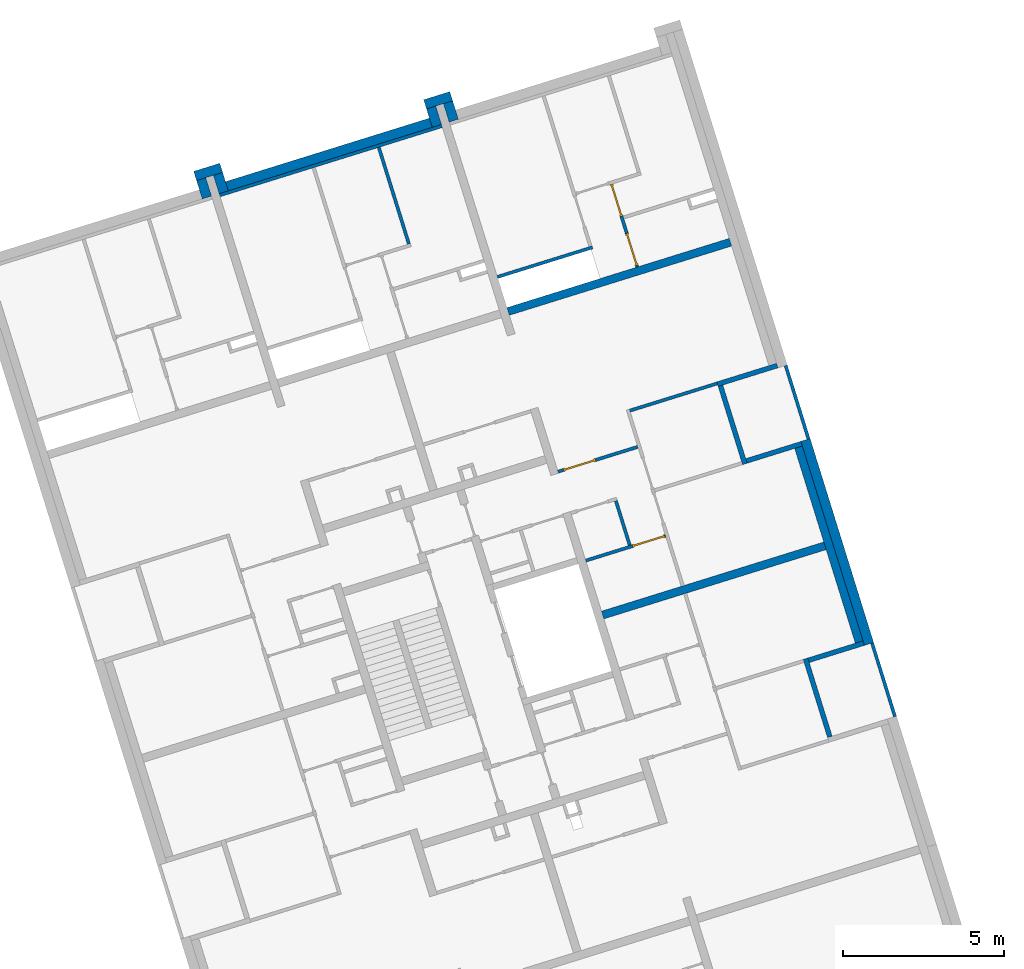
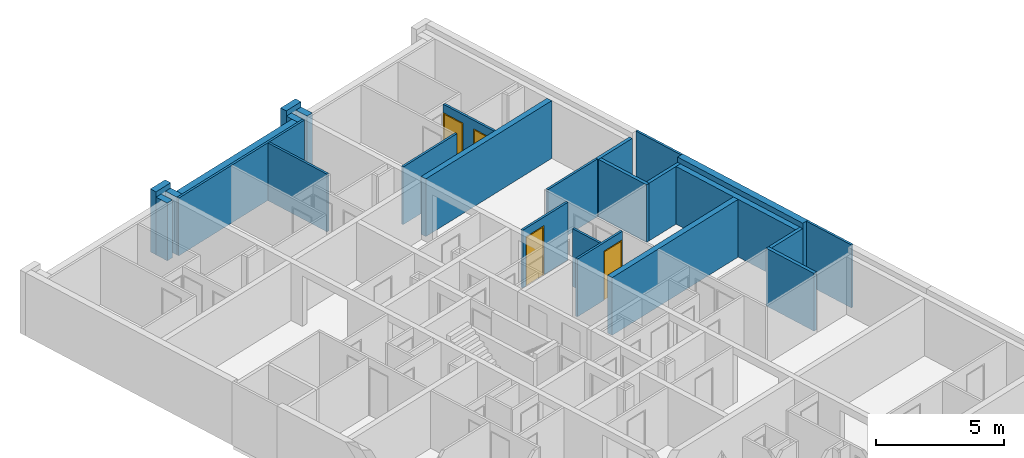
# One storey, part 8 of 12: 26 walls, 4 doors, 5 openings.
"""IFC4 building model written with IfcOpenShell, lengths in metres."""

from ifc_helpers import new_model, entity, si_unit, converted_unit, direction, frame, origin, place, context, subcontext, project, spatial, indexed_curve, outline, extrude, polygons, source, transform, mapped, material, constituent, constituent_set, type_object, type_shapes, element, fill, save


model = new_model("IFC4")

# Units and contexts
model_context = context("Model", 3, precision=1e-05, world=origin(), true_north=direction((6.12323399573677e-17, 1.0)))
body_context = subcontext(model_context, "Body", "Model", "MODEL_VIEW")
ifc_project = project(units=[si_unit("LENGTHUNIT", "METRE"), si_unit("AREAUNIT", "SQUARE_METRE"), converted_unit("PLANEANGLEUNIT", "DEGREE", entity("IfcPlaneAngleMeasure", 0.0174532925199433), si_unit("PLANEANGLEUNIT", "RADIAN"), dimensions=[0, 0, 0, 0, 0, 0, 0]), si_unit("VOLUMEUNIT", "CUBIC_METRE")], contexts=[model_context])

# Site, building, storey
site_placement = place(None, frame((13.1347999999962, 11.9886000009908, 0.0), z_axis=(0.0, 0.0, 1.0), x_axis=(0.954770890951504, 0.297342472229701, 0.0)))
site = spatial("IfcSite", under=ifc_project, at=site_placement, Name="Schiehaven", CompositionType="ELEMENT")
building_placement = place(site_placement, origin())
building = spatial("IfcBuilding", under=site, at=building_placement, Name="VORM huis", CompositionType="ELEMENT")
storey_placement = place(building_placement, frame((0.0, 0.0, 3.9)))
storey = spatial("IfcBuildingStorey", under=building, at=storey_placement, Name="01 eerste verdieping", CompositionType="ELEMENT", Elevation=3.9)

# Walls
ifc_material_1 = material(Name="beton_gewapend_ihw", Category="Miscellaneous")
wall_type_1 = type_object("IfcWallType", Name="Basic Wall:28_WA_skelet_wand 250mm_gen", PredefinedType="STANDARD")
wall_1_placement = place(storey_placement, frame((80.0, 13.875, 0.0), z_axis=(0.0, 0.0, 1.0), x_axis=(0.0, 1.0, 0.0)))
element("IfcWall", 1, at=wall_1_placement, inside=storey, type_object=wall_type_1, material=ifc_material_1, Name="Constructieve wand", ObjectType="Wand", PredefinedType="NOTDEFINED", context=body_context, shape_type="SweptSolid", body=[
    extrude(outline(indexed_curve([(6.34999999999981, 0.125000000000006), (6.82121026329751e-16, 0.125000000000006), (1.48361323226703e-15, -0.125000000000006), (6.3499999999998, -0.125000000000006), (6.34999999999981, 0.125000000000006)], self_intersect=False)), origin(), (0.0, 0.0, 1.0), 2.75),
])
ifc_material_2 = material(Name="ntb_ntb_ntb", Category="Miscellaneous")
wall_type_2 = type_object("IfcWallType", Name="Basic Wall:21_WA_gevel_binnenspouwwand 100mm_gen", PredefinedType="STANDARD")
wall_2_placement = place(storey_placement, frame((72.3750000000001, 33.0749999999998, 0.0), z_axis=(0.0, 0.0, 1.0), x_axis=(-1.0, 0.0, 0.0)))
element("IfcWall", 2, at=wall_2_placement, inside=storey, type_object=wall_type_2, material=ifc_material_2, Name="Binnenspouwblad", ObjectType="Wand", PredefinedType="NOTDEFINED", context=body_context, shape_type="SweptSolid", body=[
    extrude(outline(indexed_curve([(7.24999999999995, 0.0500000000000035), (1.69379877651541e-17, 0.0500000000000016), (-1.69379877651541e-17, -0.0500000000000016), (7.24999999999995, -0.0499999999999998), (7.24999999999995, 0.0500000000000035)], self_intersect=False)), origin(), (0.0, 0.0, 1.0), 2.75),
])
wall_type_3 = type_object("IfcWallType", Name="Basic Wall: 300mm_gen", PredefinedType="STANDARD")
wall_3_placement = place(storey_placement, frame((80.2750000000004, 13.725, 0.0), z_axis=(0.0, 0.0, 1.0), x_axis=(0.0, 1.0, 0.0)))
element("IfcWall", 3, at=wall_3_placement, inside=storey, type_object=wall_type_3, material=ifc_material_2, Name="Gevelwand", ObjectType="Wand", PredefinedType="NOTDEFINED", context=body_context, shape_type="SweptSolid", body=[
    extrude(outline(indexed_curve([(6.64999999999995, 0.150000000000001), (3.90809189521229e-16, 0.150000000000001), (-3.90809189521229e-16, -0.150000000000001), (6.64999999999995, -0.150000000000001), (6.64999999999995, 0.150000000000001)], self_intersect=False)), origin(), (0.0, 0.0, 1.0), 3.0),
])
wall_4_placement = place(storey_placement, frame((64.7250000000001, 33.7249999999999, 0.0), z_axis=(0.0, 0.0, 1.0), x_axis=(0.0, -1.0, 0.0)))
element("IfcWall", 4, at=wall_4_placement, inside=storey, type_object=wall_type_3, material=ifc_material_2, Name="Gevelwand", ObjectType="Wand", PredefinedType="NOTDEFINED", context=body_context, shape_type="SweptSolid", body=[
    extrude(outline(indexed_curve([(0.600000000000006, 0.150000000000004), (-9.66298299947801e-16, 0.150000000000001), (9.66298299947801e-16, -0.150000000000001), (0.600000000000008, -0.149999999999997), (0.600000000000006, 0.150000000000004)], self_intersect=False)), origin(), (0.0, 0.0, 1.0), 2.75),
])
wall_5_placement = place(storey_placement, frame((65.4250000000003, 33.8749999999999, 0.0), z_axis=(0.0, 0.0, 1.0), x_axis=(-1.0, 0.0, 0.0)))
element("IfcWall", 5, at=wall_5_placement, inside=storey, type_object=wall_type_3, material=ifc_material_2, Name="Gevelwand", ObjectType="Wand", PredefinedType="NOTDEFINED", context=body_context, shape_type="SweptSolid", body=[
    extrude(outline(indexed_curve([(0.850000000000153, 0.150000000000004), (-6.58211410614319e-16, 0.150000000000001), (6.58211410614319e-16, -0.150000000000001), (0.850000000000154, -0.149999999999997), (0.850000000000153, 0.150000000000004)], self_intersect=False)), origin(), (0.0, 0.0, 1.0), 3.0),
])
wall_6_placement = place(storey_placement, frame((65.2750000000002, 33.1249999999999, 0.0), z_axis=(0.0, 0.0, 1.0), x_axis=(0.0, 1.0, 0.0)))
element("IfcWall", 6, at=wall_6_placement, inside=storey, type_object=wall_type_3, material=ifc_material_2, Name="Gevelwand", ObjectType="Wand", PredefinedType="NOTDEFINED", context=body_context, shape_type="SweptSolid", body=[
    extrude(outline(indexed_curve([(0.600000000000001, 0.150000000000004), (-9.66298299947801e-16, 0.150000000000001), (9.66298299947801e-16, -0.150000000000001), (0.600000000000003, -0.149999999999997), (0.600000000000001, 0.150000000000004)], self_intersect=False)), origin(), (0.0, 0.0, 1.0), 2.75),
])
wall_7_placement = place(storey_placement, frame((72.2250000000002, 33.7249999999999, 0.0), z_axis=(0.0, 0.0, 1.0), x_axis=(0.0, -1.0, 0.0)))
element("IfcWall", 7, at=wall_7_placement, inside=storey, type_object=wall_type_3, material=ifc_material_2, Name="Gevelwand", ObjectType="Wand", PredefinedType="NOTDEFINED", context=body_context, shape_type="SweptSolid", body=[
    extrude(outline(indexed_curve([(0.600000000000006, 0.150000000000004), (-9.66298299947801e-16, 0.150000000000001), (9.66298299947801e-16, -0.150000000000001), (0.600000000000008, -0.149999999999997), (0.600000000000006, 0.150000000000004)], self_intersect=False)), origin(), (0.0, 0.0, 1.0), 2.75),
])
wall_8_placement = place(storey_placement, frame((72.0750000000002, 33.2749999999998, 0.0), z_axis=(0.0, 0.0, 1.0), x_axis=(-1.0, 0.0, 0.0)))
element("IfcWall", 8, at=wall_8_placement, inside=storey, type_object=wall_type_3, material=ifc_material_2, Name="Gevelwand", ObjectType="Wand", PredefinedType="NOTDEFINED", context=body_context, shape_type="SweptSolid", body=[
    extrude(outline(indexed_curve([(6.64999999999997, 0.150000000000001), (-4.90186530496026e-16, 0.150000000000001), (4.90186530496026e-16, -0.150000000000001), (6.64999999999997, -0.15), (6.64999999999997, 0.150000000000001)], self_intersect=False)), origin(), (0.0, 0.0, 1.0), 2.75),
])
wall_9_placement = place(storey_placement, frame((72.9250000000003, 33.8749999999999, 0.0), z_axis=(0.0, 0.0, 1.0), x_axis=(-1.0, 0.0, 0.0)))
element("IfcWall", 9, at=wall_9_placement, inside=storey, type_object=wall_type_3, material=ifc_material_2, Name="Gevelwand", ObjectType="Wand", PredefinedType="NOTDEFINED", context=body_context, shape_type="SweptSolid", body=[
    extrude(outline(indexed_curve([(0.850000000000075, 0.150000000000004), (-6.58211410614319e-16, 0.150000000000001), (6.58211410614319e-16, -0.150000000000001), (0.850000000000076, -0.149999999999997), (0.850000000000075, 0.150000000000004)], self_intersect=False)), origin(), (0.0, 0.0, 1.0), 3.0),
])
wall_10_placement = place(storey_placement, frame((72.7750000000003, 33.1249999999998, 0.0), z_axis=(0.0, 0.0, 1.0), x_axis=(0.0, 1.0, 0.0)))
element("IfcWall", 10, at=wall_10_placement, inside=storey, type_object=wall_type_3, material=ifc_material_2, Name="Gevelwand", ObjectType="Wand", PredefinedType="NOTDEFINED", context=body_context, shape_type="SweptSolid", body=[
    extrude(outline(indexed_curve([(0.60000000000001, 0.150000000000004), (-9.66298299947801e-16, 0.150000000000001), (9.66298299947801e-16, -0.150000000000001), (0.600000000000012, -0.149999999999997), (0.60000000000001, 0.150000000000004)], self_intersect=False)), origin(), (0.0, 0.0, 1.0), 2.75),
])
wall_type_4 = type_object("IfcWallType", Name="Basic Wall:22_WA_afbouw_binnenwand 250mm_gen", PredefinedType="STANDARD")
wall_11_placement = place(storey_placement, frame((72.6250000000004, 17.05, 0.0)))
element("IfcWall", 11, at=wall_11_placement, inside=storey, type_object=wall_type_4, material=ifc_material_2, Name="Binnenwand", ObjectType="Wand", PredefinedType="NOTDEFINED", context=body_context, shape_type="SweptSolid", body=[
    extrude(outline(indexed_curve([(7.24999999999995, 0.124999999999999), (5.6918223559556e-16, 0.125), (-5.6918223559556e-16, -0.125), (7.24999999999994, -0.125), (7.24999999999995, 0.124999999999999)], self_intersect=False)), origin(), (0.0, 0.0, 1.0), 2.75),
])
wall_12_placement = place(storey_placement, frame((79.8750000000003, 26.95, 0.0), z_axis=(0.0, 0.0, 1.0), x_axis=(-1.0, 0.0, 0.0)))
element("IfcWall", 12, at=wall_12_placement, inside=storey, type_object=wall_type_4, material=ifc_material_2, Name="Binnenwand", ObjectType="Wand", PredefinedType="NOTDEFINED", context=body_context, shape_type="SweptSolid", body=[
    extrude(outline(indexed_curve([(7.24999999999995, 0.125000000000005), (6.85879083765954e-16, 0.125000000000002), (-6.85879083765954e-16, -0.125000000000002), (7.24999999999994, -0.124999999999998), (7.24999999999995, 0.125000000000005)], self_intersect=False)), origin(), (0.0, 0.0, 1.0), 2.75),
])
wall_type_5 = type_object("IfcWallType", Name="Basic Wall:22_WA_afbouw_binnenwand 100mm_gen", PredefinedType="STANDARD")
wall_13_placement = place(storey_placement, frame((75.7250000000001, 28.0749999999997, 0.0), z_axis=(0.0, 0.0, 1.0), x_axis=(-1.0, 0.0, 0.0)))
element("IfcWall", 13, at=wall_13_placement, inside=storey, type_object=wall_type_5, material=ifc_material_2, Name="Binnenwand", ObjectType="Wand", PredefinedType="NOTDEFINED", context=body_context, shape_type="SweptSolid", body=[
    extrude(outline(indexed_curve([(3.10000000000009, 0.0500000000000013), (-4.84095551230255e-16, 0.0500000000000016), (4.84095551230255e-16, -0.0500000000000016), (3.10000000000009, -0.0500000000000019), (3.10000000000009, 0.0500000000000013)], self_intersect=False)), origin(), (0.0, 0.0, 1.0), 2.75),
])

# Wall, openings, doors
wall_14_placement = place(storey_placement, frame((76.875, 29.7749999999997, 0.0), z_axis=(0.0, 0.0, 1.0), x_axis=(0.0, -1.0, 0.0)))
wall_14 = element("IfcWall", 14, at=wall_14_placement, inside=storey, type_object=wall_type_5, material=ifc_material_2, Name="Binnenwand", ObjectType="Wand", PredefinedType="NOTDEFINED", context=body_context, shape_type="Tessellation", body=[
    polygons([(2.69999999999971, -0.0499999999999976, 2.75), (0.0, -0.0500000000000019, 2.75), (0.0, -0.0500000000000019, 2.34999999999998), (1.05000000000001, -0.0499999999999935, 2.34999999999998), (1.05000000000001, -0.0499999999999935, 0.0), (1.59999999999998, -0.049999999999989, 0.0), (1.59999999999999, -0.049999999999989, 2.34999999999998), (2.64999999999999, -0.049999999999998, 2.34999999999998), (2.64999999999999, -0.049999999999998, 0.0), (2.69999999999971, -0.0499999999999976, 0.0), (0.0, 0.0499999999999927, 2.75), (1.05000000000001, 0.0500000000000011, 2.75), (1.15000000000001, 0.0500000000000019, 2.75), (2.69999999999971, 0.0500000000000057, 2.75), (2.69999999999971, 0.0500000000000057, 0.0), (2.64999999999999, 0.0500000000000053, 0.0), (2.64999999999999, 0.0500000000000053, 2.34999999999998), (1.59999999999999, 0.0500000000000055, 2.34999999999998), (1.59999999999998, 0.0500000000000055, 0.0), (1.15000000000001, 0.0500000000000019, 5.41433564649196e-16), (1.05000000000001, 0.0500000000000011, 0.0), (1.05000000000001, 0.0500000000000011, 2.34999999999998), (0.0, 0.0499999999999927, 2.34999999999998)], [[[1, 2, 3, 4, 5, 6, 7, 8, 9, 10]], [[11, 12, 13, 14, 15, 16, 17, 18, 19, 20, 21, 22, 23]], [[9, 16, 15, 10]], [[2, 1, 14, 13, 12, 11]], [[18, 17, 8, 7]], [[17, 16, 9, 8]], [[19, 18, 7, 6]], [[2, 11, 23, 3]], [[4, 22, 21, 5]], [[22, 4, 3, 23]], [[1, 10, 15, 14]], [[19, 6, 5, 21, 20]]], closed=True),
])
opening_1_placement = place(wall_14_placement, frame((2.64999999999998, 0.04999999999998, 0.0)))
opening_1 = element("IfcOpeningElement", 15, at=opening_1_placement, cuts=wall_14, Name="Binnendeur", PredefinedType="OPENING", context=body_context, shape_type="SweptSolid", body=[
    extrude(outline(indexed_curve([(2.34999999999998, 1.05), (0.0, 1.05), (0.0, 0.0), (2.34999999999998, 0.0), (2.34999999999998, 1.05)], self_intersect=False)), frame((0.0, 0.0, 0.0), z_axis=(0.0, -1.0, 0.0), x_axis=(0.0, 0.0, 1.0)), (0.0, 0.0, 1.0), 0.1),
])
opening_2_placement = place(wall_14_placement, frame((29.7749999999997, -76.875, 0.0), z_axis=(0.0, 0.0, 1.0), x_axis=(0.0, 1.0, 0.0)))
element("IfcOpeningElement", 16, at=opening_2_placement, cuts=wall_14, Name="Binnendeur", PredefinedType="OPENING", context=body_context, shape_type="SweptSolid", body=[
    extrude(outline(indexed_curve([(-0.525000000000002, -1.17499999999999), (0.525000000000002, -1.17499999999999), (0.524999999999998, 1.17499999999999), (-0.525000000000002, 1.17499999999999), (-0.525000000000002, -1.17499999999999)], self_intersect=False)), frame((75.401, 27.6499999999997, 1.17499999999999), z_axis=(1.0, 0.0, 0.0), x_axis=(0.0, -1.0, 0.0)), (0.0, 0.0, 1.0), 3.048),
])
opening_3_placement = place(wall_14_placement, frame((1.05, 0.0499999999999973, 0.0)))
opening_3 = element("IfcOpeningElement", 17, at=opening_3_placement, cuts=wall_14, Name="Binnendeur", PredefinedType="OPENING", context=body_context, shape_type="SweptSolid", body=[
    extrude(outline(indexed_curve([(2.34999999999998, 1.05), (0.0, 1.05), (0.0, 0.0), (2.34999999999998, 0.0), (2.34999999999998, 1.05)], self_intersect=False)), frame((0.0, 0.0, 0.0), z_axis=(0.0, -1.0, 0.0), x_axis=(0.0, 0.0, 1.0)), (0.0, 0.0, 1.0), 0.1),
])
ifc_material_3 = material(Name="PD_a_binnenwandopeningen", Category="Miscellaneous")
ifc_constituent_1 = constituent(ifc_material_3, Name="PD_a_binnenwandopeningen", Category="Miscellaneous")
ifc_material_4 = material(Name="metaal_aluminium_ntb", Category="Miscellaneous")
ifc_constituent_2 = constituent(ifc_material_4, Name="metaal_aluminium_ntb", Category="Miscellaneous")
ifc_constituent_set_1 = constituent_set(constituents=[ifc_constituent_1, ifc_constituent_2])
ifc_constituent_3 = constituent(ifc_material_3, Name="PD_a_binnenwandopeningen", Category="Miscellaneous")
ifc_constituent_4 = constituent(ifc_material_4, Name="Panel", Category="Miscellaneous")
ifc_constituent_set_2 = constituent_set(constituents=[ifc_constituent_3, ifc_constituent_4])
door_type_1 = type_object("IfcDoorType", Name="32_DO_binnendeur enkel:binnendeur", OperationType="REVOLVING", PredefinedType="DOOR", material=ifc_constituent_set_2)
shared_shape_1 = source(origin(), body_context, "Body", "SweptSolid", [
    extrude(outline(indexed_curve([(-1.16249999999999, -0.525000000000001), (1.18749999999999, -0.525), (1.18749999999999, 0.525), (-1.16249999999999, 0.525), (-1.16249999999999, 0.475), (1.13749999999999, 0.475), (1.13749999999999, -0.475), (-1.16249999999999, -0.475), (-1.16249999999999, -0.525000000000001)], self_intersect=False)), frame((0.525000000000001, 0.0, 1.16249999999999), z_axis=(0.0, 1.0, 0.0), x_axis=(0.0, 0.0, 1.0)), (0.0, 0.0, 1.0), 0.1),
    extrude(outline(indexed_curve([(-0.025, -0.475), (0.025, -0.475), (0.025, 0.475), (-0.025, 0.475), (-0.025, -0.475)], self_intersect=False)), frame((0.525000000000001, 0.0499999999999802, 0.0), z_axis=(0.0, 0.0, 1.0), x_axis=(0.0, 1.0, 0.0)), (0.0, 0.0, 1.0), 2.29999999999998),
])
type_shapes(door_type_1, [shared_shape_1])
door_1_placement = place(opening_1_placement, frame((0.0, 0.0, 0.0), z_axis=(0.0, 0.0, 1.0), x_axis=(-1.0, 0.0, 0.0)))
door_1 = element("IfcDoor", 18, at=door_1_placement, inside=storey, type_object=door_type_1, material=ifc_constituent_set_1, Name="Binnendeur", ObjectType="Deur", OperationType="REVOLVING", OverallHeight=2.34999999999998, OverallWidth=1.05, PredefinedType="DOOR", context=body_context, shape_type="MappedRepresentation", body=[
    mapped(shared_shape_1, transform((0.0, 0.0, 0.0), scale=1.0)),
])
fill(opening_1, door_1)
ifc_constituent_5 = constituent(ifc_material_3, Name="PD_a_binnenwandopeningen", Category="Miscellaneous")
ifc_constituent_6 = constituent(ifc_material_4, Name="metaal_aluminium_ntb", Category="Miscellaneous")
ifc_constituent_set_3 = constituent_set(constituents=[ifc_constituent_5, ifc_constituent_6])
door_2_placement = place(opening_3_placement, frame((0.0, 0.0, 0.0), z_axis=(0.0, 0.0, 1.0), x_axis=(-1.0, 0.0, 0.0)))
door_2 = element("IfcDoor", 19, at=door_2_placement, inside=storey, type_object=door_type_1, material=ifc_constituent_set_3, Name="Binnendeur", ObjectType="Deur", OperationType="REVOLVING", OverallHeight=2.34999999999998, OverallWidth=1.05, PredefinedType="DOOR", context=body_context, shape_type="MappedRepresentation", body=[
    mapped(shared_shape_1, transform((0.0, 0.0, 0.0), scale=1.0)),
])
fill(opening_3, door_2)

# Walls
wall_15_placement = place(storey_placement, frame((70.3000000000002, 33.0249999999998, 0.0), z_axis=(0.0, 0.0, 1.0), x_axis=(0.0, -1.0, 0.0)))
element("IfcWall", 20, at=wall_15_placement, inside=storey, type_object=wall_type_5, material=ifc_material_2, Name="Binnenwand", ObjectType="Wand", PredefinedType="NOTDEFINED", context=body_context, shape_type="SweptSolid", body=[
    extrude(outline(indexed_curve([(3.15000000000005, 0.0499999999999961), (-3.92720775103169e-16, 0.0499999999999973), (3.92720775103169e-16, -0.0499999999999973), (3.15000000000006, -0.0499999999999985), (3.15000000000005, 0.0499999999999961)], self_intersect=False)), origin(), (0.0, 0.0, 1.0), 2.75),
])
wall_16_placement = place(storey_placement, frame((75.3249999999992, 22.8749999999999, 0.0)))
element("IfcWall", 21, at=wall_16_placement, inside=storey, type_object=wall_type_5, material=ifc_material_2, Name="Binnenwand", ObjectType="Wand", PredefinedType="NOTDEFINED", context=body_context, shape_type="SweptSolid", body=[
    extrude(outline(indexed_curve([(2.85000000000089, 0.0499999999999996), (-4.97237078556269e-16, 0.0500000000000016), (4.97237078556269e-16, -0.0500000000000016), (2.85000000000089, -0.0500000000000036), (2.85000000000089, 0.0499999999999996)], self_intersect=False)), origin(), (0.0, 0.0, 1.0), 2.75),
])

# Wall, opening, door
wall_17_placement = place(storey_placement, frame((75.2249999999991, 18.8249999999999, 0.0), z_axis=(0.0, 0.0, 1.0), x_axis=(-1.0, 0.0, 0.0)))
wall_17 = element("IfcWall", 22, at=wall_17_placement, inside=storey, type_object=wall_type_5, material=ifc_material_2, Name="Binnenwand", ObjectType="Wand", PredefinedType="NOTDEFINED", context=body_context, shape_type="Tessellation", body=[
    polygons([(1.07500000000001, -0.0499999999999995, 2.34999999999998), (1.07500000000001, -0.0499999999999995, -5.41433564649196e-16), (1.1, -0.0499999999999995, 0.0), (1.2, -0.0499999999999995, 0.0), (2.59999999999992, -0.0499999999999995, -5.41433564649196e-16), (2.59999999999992, -0.0499999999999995, 2.75), (1.2, -0.0499999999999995, 2.75), (1.1, -0.0499999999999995, 2.75), (-2.08358811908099e-15, -0.0499999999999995, 2.75), (-2.08358811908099e-15, -0.0499999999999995, -5.41433564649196e-16), (0.0250000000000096, -0.0500000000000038, -5.41433564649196e-16), (0.0250000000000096, -0.0500000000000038, 2.34999999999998), (2.59999999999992, 0.0500000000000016, -5.41433564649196e-16), (1.07500000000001, 0.0500000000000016, -5.41433564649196e-16), (1.07500000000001, 0.0500000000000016, 2.34999999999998), (0.0250000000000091, 0.0499999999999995, 2.34999999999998), (0.0250000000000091, 0.0499999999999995, -5.41433564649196e-16), (-2.53151279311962e-15, 0.0499999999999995, -5.41433564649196e-16), (-2.53151279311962e-15, 0.0499999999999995, 2.75), (2.59999999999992, 0.0500000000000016, 2.75)], [[[1, 2, 3, 4, 5, 6, 7, 8, 9, 10, 11, 12]], [[13, 14, 15, 16, 17, 18, 19, 20]], [[11, 10, 18, 17]], [[6, 5, 13, 20]], [[9, 8, 7, 6, 20, 19]], [[17, 16, 12, 11]], [[15, 14, 2, 1]], [[16, 15, 1, 12]], [[10, 9, 19, 18]], [[5, 4, 3, 2, 14, 13]]], closed=True),
])
opening_4_placement = place(wall_17_placement, frame((1.07500000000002, 0.049999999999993, 0.0)))
opening_4 = element("IfcOpeningElement", 23, at=opening_4_placement, cuts=wall_17, Name="Binnendeur", PredefinedType="OPENING", context=body_context, shape_type="SweptSolid", body=[
    extrude(outline(indexed_curve([(2.34999999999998, 1.05), (0.0, 1.05), (0.0, 0.0), (2.34999999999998, 0.0), (2.34999999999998, 1.05)], self_intersect=False)), frame((0.0, 0.0, 0.0), z_axis=(0.0, -1.0, 0.0), x_axis=(0.0, 0.0, 1.0)), (0.0, 0.0, 1.0), 0.1),
])
ifc_constituent_7 = constituent(ifc_material_3, Name="PD_a_binnenwandopeningen", Category="Miscellaneous")
ifc_constituent_8 = constituent(ifc_material_4, Name="metaal_aluminium_ntb", Category="Miscellaneous")
ifc_constituent_set_4 = constituent_set(constituents=[ifc_constituent_7, ifc_constituent_8])
door_3_placement = place(opening_4_placement, frame((0.0, 0.0, 0.0), z_axis=(0.0, 0.0, 1.0), x_axis=(-1.0, 0.0, 0.0)))
door_3 = element("IfcDoor", 24, at=door_3_placement, inside=storey, type_object=door_type_1, material=ifc_constituent_set_4, Name="Binnendeur", ObjectType="Deur", OperationType="REVOLVING", OverallHeight=2.34999999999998, OverallWidth=1.05, PredefinedType="DOOR", context=body_context, shape_type="MappedRepresentation", body=[
    mapped(shared_shape_1, transform((0.0, 0.0, 0.0), scale=1.0)),
])
fill(opening_4, door_3)

# Wall
wall_18_placement = place(storey_placement, frame((74.0749999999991, 18.8749999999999, 0.0), z_axis=(0.0, 0.0, 1.0), x_axis=(0.0, 1.0, 0.0)))
element("IfcWall", 25, at=wall_18_placement, inside=storey, type_object=wall_type_5, material=ifc_material_2, Name="Binnenwand", ObjectType="Wand", PredefinedType="NOTDEFINED", context=body_context, shape_type="SweptSolid", body=[
    extrude(outline(indexed_curve([(1.4500000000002, 0.0499999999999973), (-2.97385317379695e-16, 0.0499999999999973), (2.97385317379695e-16, -0.0499999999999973), (1.4500000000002, -0.0499999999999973), (1.4500000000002, 0.0499999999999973)], self_intersect=False)), origin(), (0.0, 0.0, 1.0), 2.75),
])

# Wall, opening, door
wall_19_placement = place(storey_placement, frame((75.2249999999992, 21.7250000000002, 0.0), z_axis=(0.0, 0.0, 1.0), x_axis=(-1.0, 0.0, 0.0)))
wall_19 = element("IfcWall", 26, at=wall_19_placement, inside=storey, type_object=wall_type_5, material=ifc_material_2, Name="Binnenwand", ObjectType="Wand", PredefinedType="NOTDEFINED", context=body_context, shape_type="Tessellation", body=[
    polygons([(2.4260821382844, -0.0499999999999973, 2.34999999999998), (2.4260821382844, -0.0499999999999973, 0.0), (2.59999999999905, -0.0499999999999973, 0.0), (2.59999999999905, -0.0499999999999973, 2.75), (-1.16012227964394e-14, -0.0499999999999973, 2.75), (-1.16012227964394e-14, -0.0499999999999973, 0.0), (1.37608213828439, -0.0499999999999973, 0.0), (1.37608213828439, -0.0499999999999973, 2.34999999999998), (2.59999999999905, 0.0500000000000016, 0.0), (2.4260821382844, 0.0500000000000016, 0.0), (2.4260821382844, 0.0500000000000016, 2.34999999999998), (1.37608213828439, 0.0500000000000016, 2.34999999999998), (1.37608213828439, 0.0500000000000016, 0.0), (-1.12694580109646e-14, 0.0500000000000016, 0.0), (-1.12694580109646e-14, 0.0500000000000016, 2.75), (2.59999999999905, 0.0500000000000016, 2.75)], [[[1, 2, 3, 4, 5, 6, 7, 8]], [[9, 10, 11, 12, 13, 14, 15, 16]], [[7, 6, 14, 13]], [[4, 3, 9, 16]], [[5, 4, 16, 15]], [[6, 5, 15, 14]], [[13, 12, 8, 7]], [[11, 10, 2, 1]], [[12, 11, 1, 8]], [[3, 2, 10, 9]]], closed=True),
])
opening_5_placement = place(wall_19_placement, frame((1.3760821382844, -0.0500000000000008, 0.0)))
opening_5 = element("IfcOpeningElement", 27, at=opening_5_placement, cuts=wall_19, Name="Binnendeur", PredefinedType="OPENING", context=body_context, shape_type="SweptSolid", body=[
    extrude(outline(indexed_curve([(2.34999999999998, 1.15635905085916e-29), (2.34999999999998, 1.05), (0.0, 1.05), (0.0, 1.15635905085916e-29), (2.34999999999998, 1.15635905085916e-29)], self_intersect=False)), frame((0.0, 0.0, 0.0), z_axis=(0.0, 1.0, 0.0), x_axis=(0.0, 0.0, 1.0)), (0.0, 0.0, 1.0), 0.1),
])
ifc_constituent_9 = constituent(ifc_material_3, Name="PD_a_binnenwandopeningen", Category="Miscellaneous")
ifc_constituent_10 = constituent(ifc_material_4, Name="metaal_aluminium_ntb", Category="Miscellaneous")
ifc_constituent_set_5 = constituent_set(constituents=[ifc_constituent_9, ifc_constituent_10])
ifc_constituent_11 = constituent(ifc_material_3, Name="PD_a_binnenwandopeningen", Category="Miscellaneous")
ifc_constituent_12 = constituent(ifc_material_4, Name="Panel", Category="Miscellaneous")
ifc_constituent_set_6 = constituent_set(constituents=[ifc_constituent_11, ifc_constituent_12])
door_type_2 = type_object("IfcDoorType", Name="32_DO_binnendeur enkel:binnendeur", OperationType="REVOLVING", PredefinedType="DOOR", material=ifc_constituent_set_6)
shared_shape_2 = source(origin(), body_context, "Body", "SweptSolid", [
    extrude(outline(indexed_curve([(0.475, -1.16249999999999), (0.525, -1.16249999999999), (0.525, 1.18749999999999), (-0.525, 1.18749999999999), (-0.525, -1.16249999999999), (-0.475, -1.16249999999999), (-0.475, 1.13749999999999), (0.475, 1.13749999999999), (0.475, -1.16249999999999)], self_intersect=False)), frame((0.525000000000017, 0.100000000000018, 1.16249999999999), z_axis=(0.0, -1.0, 0.0), x_axis=(1.0, 0.0, 0.0)), (0.0, 0.0, 1.0), 0.1),
    extrude(outline(indexed_curve([(-0.475, -0.025), (0.475, -0.025), (0.475, 0.025), (-0.475, 0.025), (-0.475, -0.025)], self_intersect=False)), frame((0.525000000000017, 0.0499999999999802, 0.0)), (0.0, 0.0, 1.0), 2.29999999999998),
])
type_shapes(door_type_2, [shared_shape_2])
door_4_placement = place(opening_5_placement, origin())
door_4 = element("IfcDoor", 28, at=door_4_placement, inside=storey, type_object=door_type_2, material=ifc_constituent_set_5, Name="Binnendeur", ObjectType="Deur", OperationType="REVOLVING", OverallHeight=2.34999999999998, OverallWidth=1.05, PredefinedType="DOOR", context=body_context, shape_type="MappedRepresentation", body=[
    mapped(shared_shape_2, transform((0.0, 0.0, 0.0), scale=1.0)),
])
fill(opening_5, door_4)

# Walls
wall_type_6 = type_object("IfcWallType", Name="Basic Wall: 150mm_gen", PredefinedType="STANDARD")
wall_20_placement = place(storey_placement, frame((78.2500000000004, 11.325, 0.0), z_axis=(0.0, 0.0, 1.0), x_axis=(0.0, 1.0, 0.0)))
element("IfcWall", 29, at=wall_20_placement, inside=storey, type_object=wall_type_6, material=ifc_material_2, Name="Gevelwand", ObjectType="Wand", PredefinedType="NOTDEFINED", context=body_context, shape_type="SweptSolid", body=[
    extrude(outline(indexed_curve([(2.55, 0.0749999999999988), (4.36114281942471e-17, 0.0750000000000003), (-4.36114281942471e-17, -0.0750000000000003), (2.55, -0.0750000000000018), (2.55, 0.0749999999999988)], self_intersect=False)), origin(), (0.0, 0.0, 1.0), 2.75),
])
wall_21_placement = place(storey_placement, frame((78.3250000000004, 13.8, 0.0)))
element("IfcWall", 30, at=wall_21_placement, inside=storey, type_object=wall_type_6, material=ifc_material_2, Name="Gevelwand", ObjectType="Wand", PredefinedType="NOTDEFINED", context=body_context, shape_type="SweptSolid", body=[
    extrude(outline(indexed_curve([(1.79999999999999, 0.0750000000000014), (4.36114281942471e-17, 0.0750000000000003), (-4.36114281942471e-17, -0.0750000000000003), (1.79999999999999, -0.0749999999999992), (1.79999999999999, 0.0750000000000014)], self_intersect=False)), origin(), (0.0, 0.0, 1.0), 2.75),
])
wall_22_placement = place(storey_placement, frame((80.1250000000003, 22.8499999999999, 0.0), z_axis=(0.0, 0.0, 1.0), x_axis=(-1.0, 0.0, 0.0)))
element("IfcWall", 31, at=wall_22_placement, inside=storey, type_object=wall_type_6, material=ifc_material_2, Name="Gevelwand", ObjectType="Wand", PredefinedType="NOTDEFINED", context=body_context, shape_type="SweptSolid", body=[
    extrude(outline(indexed_curve([(1.94999999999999, 0.0750000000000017), (2.77699732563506e-16, 0.0750000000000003), (-2.77699732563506e-16, -0.0750000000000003), (1.94999999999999, -0.0749999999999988), (1.94999999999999, 0.0750000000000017)], self_intersect=False)), origin(), (0.0, 0.0, 1.0), 2.75),
])
wall_23_placement = place(storey_placement, frame((78.2500000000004, 22.7749999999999, 0.0), z_axis=(0.0, 0.0, 1.0), x_axis=(0.0, -1.0, 0.0)))
element("IfcWall", 32, at=wall_23_placement, inside=storey, type_object=wall_type_6, material=ifc_material_2, Name="Gevelwand", ObjectType="Wand", PredefinedType="NOTDEFINED", context=body_context, shape_type="SweptSolid", body=[
    extrude(outline(indexed_curve([(2.55, 0.0749999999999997), (5.26760578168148e-16, 0.0750000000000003), (-5.26760578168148e-16, -0.0750000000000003), (2.55, -0.0750000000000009), (2.55, 0.0749999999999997)], self_intersect=False)), origin(), (0.0, 0.0, 1.0), 2.75),
])
wall_24_placement = place(storey_placement, frame((78.3250000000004, 20.2999999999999, 0.0)))
element("IfcWall", 33, at=wall_24_placement, inside=storey, type_object=wall_type_6, material=ifc_material_2, Name="Gevelwand", ObjectType="Wand", PredefinedType="NOTDEFINED", context=body_context, shape_type="SweptSolid", body=[
    extrude(outline(indexed_curve([(1.79999999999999, 0.0750000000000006), (5.26760578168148e-16, 0.0750000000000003), (-5.26760578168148e-16, -0.0750000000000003), (1.79999999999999, -0.0749999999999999), (1.79999999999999, 0.0750000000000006)], self_intersect=False)), origin(), (0.0, 0.0, 1.0), 2.75),
])
wall_type_7 = type_object("IfcWallType", Name="Basic Wall: 100mm_gen", PredefinedType="STANDARD")
wall_25_placement = place(storey_placement, frame((80.3750000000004, 11.325, 0.0), z_axis=(0.0, 0.0, 1.0), x_axis=(0.0, 1.0, 0.0)))
element("IfcWall", 34, at=wall_25_placement, inside=storey, type_object=wall_type_7, material=ifc_material_2, Name="Gevelwand", ObjectType="Wand", PredefinedType="NOTDEFINED", context=body_context, shape_type="SweptSolid", body=[
    extrude(outline(indexed_curve([(2.4, 0.050000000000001), (1.03044120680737e-16, 0.050000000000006), (-1.03044120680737e-16, -0.050000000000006), (2.4, -0.0500000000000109), (2.4, 0.050000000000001)], self_intersect=False)), origin(), (0.0, 0.0, 1.0), 3.0),
])
wall_26_placement = place(storey_placement, frame((80.3750000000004, 22.7749999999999, 0.0), z_axis=(0.0, 0.0, 1.0), x_axis=(0.0, -1.0, 0.0)))
element("IfcWall", 35, at=wall_26_placement, inside=storey, type_object=wall_type_7, material=ifc_material_2, Name="Gevelwand", ObjectType="Wand", PredefinedType="NOTDEFINED", context=body_context, shape_type="SweptSolid", body=[
    extrude(outline(indexed_curve([(2.4, 0.05000000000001), (2.77203883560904e-16, 0.050000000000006), (-2.77203883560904e-16, -0.050000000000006), (2.4, -0.0500000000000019), (2.4, 0.05000000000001)], self_intersect=False)), origin(), (0.0, 0.0, 1.0), 3.0),
])

save(model, "model.ifc")
